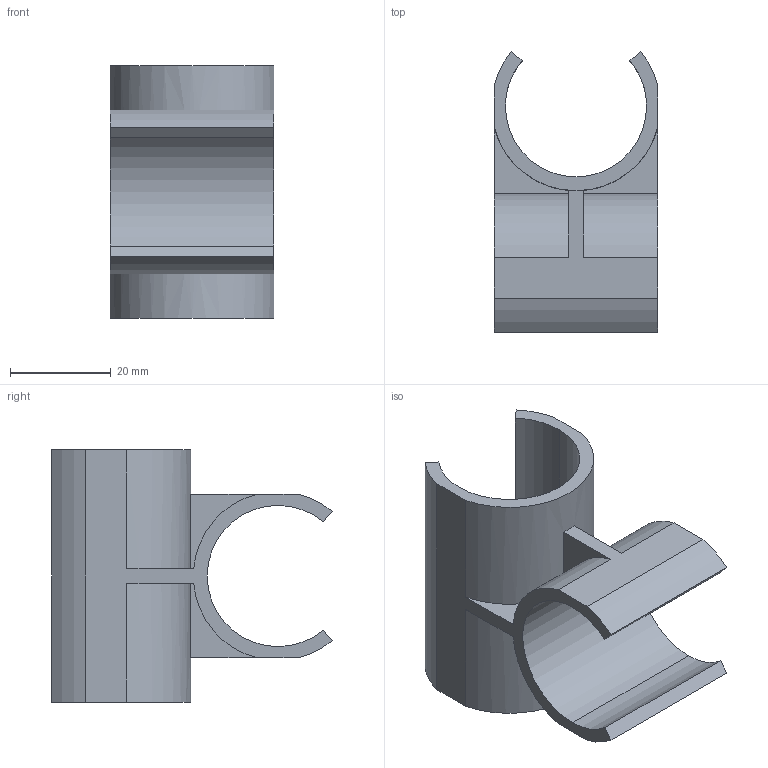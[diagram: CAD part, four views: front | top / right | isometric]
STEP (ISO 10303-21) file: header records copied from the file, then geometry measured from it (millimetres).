
FILE_DESCRIPTION (( 'STEP AP214' ), '1' );
FILE_NAME ('PJ-300B.STEP', '2023-09-12T11:05:53', ( 'catia' ), ( 'HP Inc.' ), 'SwSTEP 2.0', 'SolidWorks 2021', '' );
FILE_SCHEMA (( 'AUTOMOTIVE_DESIGN' ));
Length unit declared in the file: millimetre
Products named in the file (1): PJ-300B
Bounding box: 32.5 x 55.58 x 50 mm (x, y, z)
Volume: 16132.6 mm3; surface area: 12917.7 mm2
Topology: 1 solids, 1 shells, 34 faces, 96 edges, 64 vertices
Faces by surface type: plane 18, cylinder 16
Entity records: 1150 total; most frequent: DIRECTION 202, CARTESIAN_POINT 195, ORIENTED_EDGE 192, EDGE_CURVE 96, AXIS2_PLACEMENT_3D 71, VERTEX_POINT 64, VECTOR 60, LINE 60
